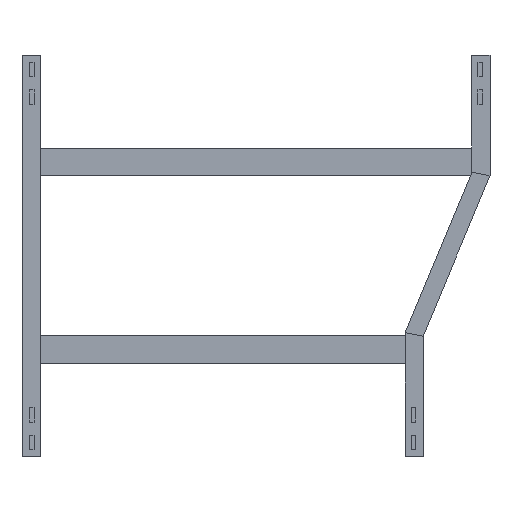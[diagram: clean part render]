
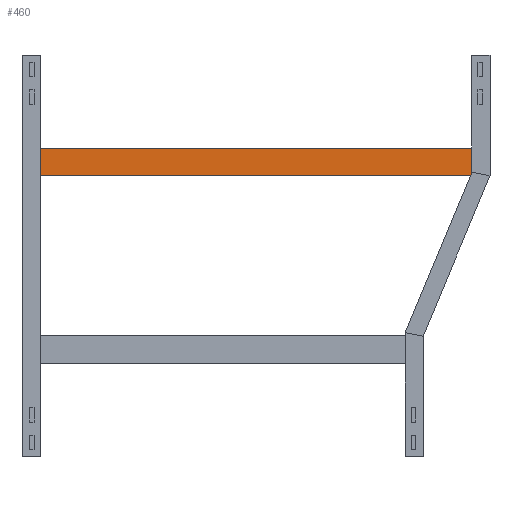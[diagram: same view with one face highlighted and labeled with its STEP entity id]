
A CAD part, front view. The second image highlights one B-rep face of the part: STEP entity #460.
In plain terms, the highlighted planar face has unit normal (0, -1, 0).
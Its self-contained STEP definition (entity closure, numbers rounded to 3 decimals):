
#17 = FACE_OUTER_BOUND ( 'NONE', #1256, .T. ) ;
#28 = CARTESIAN_POINT ( 'NONE',  ( 348., 0., 20.25 ) ) ;
#131 = VERTEX_POINT ( 'NONE', #3386 ) ;
#204 = DIRECTION ( 'NONE',  ( -1., 0., 0. ) ) ;
#215 = EDGE_CURVE ( 'NONE', #1425, #131, #2710, .T. ) ;
#460 = ADVANCED_FACE ( 'NONE', ( #17 ), #636, .F. ) ;
#497 = CARTESIAN_POINT ( 'NONE',  ( -348., 0., -20.25 ) ) ;
#636 = PLANE ( 'NONE',  #2738 ) ;
#650 = VERTEX_POINT ( 'NONE', #3274 ) ;
#659 = EDGE_CURVE ( 'NONE', #650, #2977, #1867, .T. ) ;
#785 = VECTOR ( 'NONE', #1362, 1000. ) ;
#1256 = EDGE_LOOP ( 'NONE', ( #3430, #3165, #2646, #1875 ) ) ;
#1362 = DIRECTION ( 'NONE',  ( 0., 0., -1. ) ) ;
#1425 = VERTEX_POINT ( 'NONE', #28 ) ;
#1446 = DIRECTION ( 'NONE',  ( 0., 1., 0. ) ) ;
#1497 = VECTOR ( 'NONE', #204, 1000. ) ;
#1584 = LINE ( 'NONE', #3263, #2191 ) ;
#1867 = LINE ( 'NONE', #2749, #785 ) ;
#1875 = ORIENTED_EDGE ( 'NONE', *, *, #1974, .T. ) ;
#1974 = EDGE_CURVE ( 'NONE', #1425, #650, #2700, .T. ) ;
#2191 = VECTOR ( 'NONE', #3035, 1000. ) ;
#2200 = VECTOR ( 'NONE', #2625, 1000. ) ;
#2226 = CARTESIAN_POINT ( 'NONE',  ( 348., 0., 20.25 ) ) ;
#2625 = DIRECTION ( 'NONE',  ( 0., 0., -1. ) ) ;
#2646 = ORIENTED_EDGE ( 'NONE', *, *, #215, .F. ) ;
#2700 = LINE ( 'NONE', #2904, #1497 ) ;
#2710 = LINE ( 'NONE', #3601, #2200 ) ;
#2738 = AXIS2_PLACEMENT_3D ( 'NONE', #2226, #1446, #3366 ) ;
#2749 = CARTESIAN_POINT ( 'NONE',  ( -348., 0., 20.25 ) ) ;
#2904 = CARTESIAN_POINT ( 'NONE',  ( 348., 0., 20.25 ) ) ;
#2977 = VERTEX_POINT ( 'NONE', #497 ) ;
#3013 = EDGE_CURVE ( 'NONE', #131, #2977, #1584, .T. ) ;
#3035 = DIRECTION ( 'NONE',  ( -1., 0., 0. ) ) ;
#3165 = ORIENTED_EDGE ( 'NONE', *, *, #3013, .F. ) ;
#3263 = CARTESIAN_POINT ( 'NONE',  ( 348., 0., -20.25 ) ) ;
#3274 = CARTESIAN_POINT ( 'NONE',  ( -348., 0., 20.25 ) ) ;
#3366 = DIRECTION ( 'NONE',  ( 0., 0., 1. ) ) ;
#3386 = CARTESIAN_POINT ( 'NONE',  ( 348., 0., -20.25 ) ) ;
#3430 = ORIENTED_EDGE ( 'NONE', *, *, #659, .T. ) ;
#3601 = CARTESIAN_POINT ( 'NONE',  ( 348., 0., 20.25 ) ) ;
